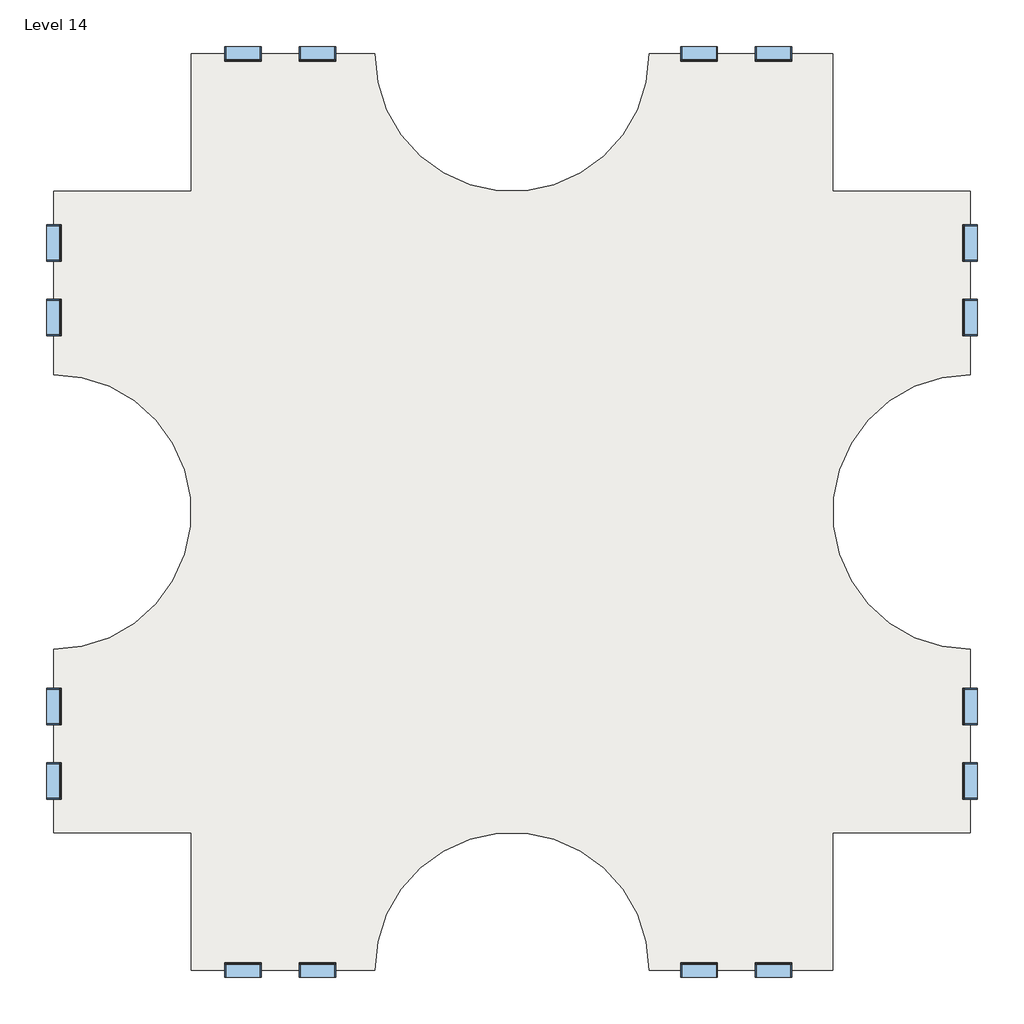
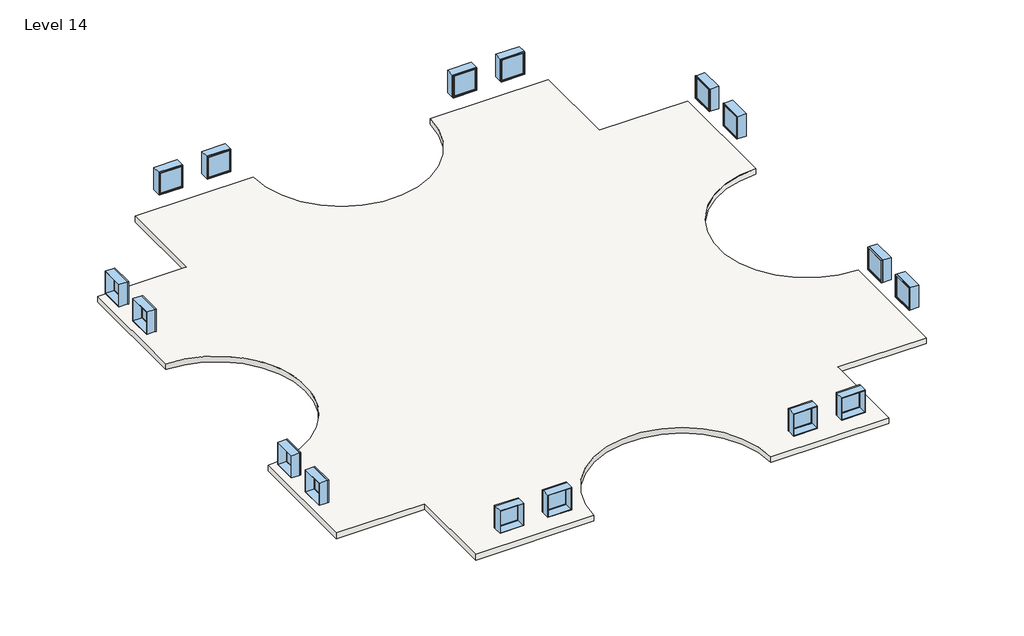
# One storey: 16 windows, 2 slabs.
"""IFC4 building model written with IfcOpenShell, lengths in millimetres."""

from ifc_helpers import new_model, si_unit, point, frame, frame_2d, origin, place, context, project, spatial, polyline, circle_curve, trimmed, segment, composite_curve, outline, extrude, transform, mapped, element, save
from components import window_d0035ecf, window_d434eb62

model = new_model("IFC4")

# Units and contexts
model_context = context("Model", 3, world=origin())
ifc_project = project(units=[si_unit("LENGTHUNIT", "METRE", prefix="MILLI")], contexts=[model_context])

# Site, building, storey
site = spatial("IfcSite", under=ifc_project)
building = spatial("IfcBuilding", under=site)
storey = spatial("IfcBuildingStorey", under=building, Name="Level 14", Elevation=39624.0)

# Slabs
placement = place(None, origin())
element("IfcSlab", 1, ObjectType="Generic - 12\"", at=placement, inside=storey, context=model_context, shape_type="SweptSolid", body=[
    extrude(outline(composite_curve([segment(polyline([(-7150.3629456, 4479.6634547), (-7150.3629456, 9051.6634547), (-1054.3629456, 9051.6634547)]), True, "CONTINUOUS"), segment(trimmed(circle_curve(frame_2d((3517.6370544, 9051.6634547)), 4572.0), [point((-1054.3629456, 9051.6634547))], [point((8089.6370544, 9051.6634547))], True, "CARTESIAN"), True, "CONTINUOUS"), segment(polyline([(8089.6370544, 9051.6634547), (14185.6370544, 9051.6634547), (14185.6370544, 4479.6634547), (18757.6370544, 4479.6634547), (18757.6370544, -1616.3365453)]), True, "CONTINUOUS"), segment(trimmed(circle_curve(frame_2d((18757.6370544, -6188.3365453)), 4572.0), [point((18757.6370544, -1616.3365453))], [point((18757.6370544, -10760.3365453))], True, "CARTESIAN"), True, "CONTINUOUS"), segment(polyline([(18757.6370544, -10760.3365453), (18757.6370544, -16856.3365453), (14185.6370544, -16856.3365453), (14185.6370544, -21428.3365453), (8089.6370544, -21428.3365453)]), True, "CONTINUOUS"), segment(trimmed(circle_curve(frame_2d((3517.6370544, -21428.3365453)), 4572.0), [point((8089.6370544, -21428.3365453))], [point((-1054.3629456, -21428.3365453))], True, "CARTESIAN"), True, "CONTINUOUS"), segment(polyline([(-1054.3629456, -21428.3365453), (-7150.3629456, -21428.3365453), (-7150.3629456, -16856.3365453), (-11722.3629456, -16856.3365453), (-11722.3629456, -10760.3365453)]), True, "CONTINUOUS"), segment(trimmed(circle_curve(frame_2d((-11722.3629456, -6188.3365453)), 4572.0), [point((-11722.3629456, -10760.3365453))], [point((-11722.3629456, -1616.3365453))], True, "CARTESIAN"), True, "CONTINUOUS"), segment(polyline([(-11722.3629456, -1616.3365453), (-11722.3629456, 4479.6634547), (-7150.3629456, 4479.6634547)]), True, "CONTINUOUS")], self_intersect=False)), frame((0.0, 0.0, 39319.2), z_axis=(0.0, 0.0, 1.0), x_axis=(1.0, 0.0, 0.0)), (0.0, 0.0, 1.0), 304.8),
])
element("IfcSlab", 2, ObjectType="Generic - 12\"", at=placement, inside=storey, context=model_context, shape_type="SweptSolid", body=[
    extrude(outline(composite_curve([segment(polyline([(-7150.3629456, 4479.6634547), (-7150.3629456, 9051.6634547), (-1054.3629456, 9051.6634547)]), True, "CONTINUOUS"), segment(trimmed(circle_curve(frame_2d((3517.6370544, 9051.6634547)), 4572.0), [point((-1054.3629456, 9051.6634547))], [point((8089.6370544, 9051.6634547))], True, "CARTESIAN"), True, "CONTINUOUS"), segment(polyline([(8089.6370544, 9051.6634547), (14185.6370544, 9051.6634547), (14185.6370544, 4479.6634547), (18757.6370544, 4479.6634547), (18757.6370544, -1616.3365453)]), True, "CONTINUOUS"), segment(trimmed(circle_curve(frame_2d((18757.6370544, -6188.3365453)), 4572.0), [point((18757.6370544, -1616.3365453))], [point((18757.6370544, -10760.3365453))], True, "CARTESIAN"), True, "CONTINUOUS"), segment(polyline([(18757.6370544, -10760.3365453), (18757.6370544, -16856.3365453), (14185.6370544, -16856.3365453), (14185.6370544, -21428.3365453), (8089.6370544, -21428.3365453)]), True, "CONTINUOUS"), segment(trimmed(circle_curve(frame_2d((3517.6370544, -21428.3365453)), 4572.0), [point((8089.6370544, -21428.3365453))], [point((-1054.3629456, -21428.3365453))], True, "CARTESIAN"), True, "CONTINUOUS"), segment(polyline([(-1054.3629456, -21428.3365453), (-7150.3629456, -21428.3365453), (-7150.3629456, -16856.3365453), (-11722.3629456, -16856.3365453), (-11722.3629456, -10760.3365453)]), True, "CONTINUOUS"), segment(trimmed(circle_curve(frame_2d((-11722.3629456, -6188.3365453)), 4572.0), [point((-11722.3629456, -10760.3365453))], [point((-11722.3629456, -1616.3365453))], True, "CARTESIAN"), True, "CONTINUOUS"), segment(polyline([(-11722.3629456, -1616.3365453), (-11722.3629456, 4479.6634547), (-7150.3629456, 4479.6634547)]), True, "CONTINUOUS")], self_intersect=False)), frame((0.0, 0.0, 39319.2), z_axis=(0.0, 0.0, 1.0), x_axis=(1.0, 0.0, 0.0)), (0.0, 0.0, 1.0), 304.8),
])

# Windows
window_shape = window_d0035ecf(model_context)
element("IfcWindow", 3, ObjectType="Fixed : 48\" x 48\"", at=placement, inside=storey, context=model_context, shape_type="MappedRepresentation", body=[
    mapped(window_shape, transform((-11719.1879456, 247.3884547, 39624.0), x_axis=(0.0, -1.0, 0.0), y_axis=(1.0, 0.0, 0.0), z_axis=(0.0, 0.0, 1.0))),
])
element("IfcWindow", 4, ObjectType="Fixed : 48\" x 48\"", at=placement, inside=storey, context=model_context, shape_type="MappedRepresentation", body=[
    mapped(window_shape, transform((-5469.1993281, 9048.4884547, 39624.0), x_axis=(-1.0, 0.0, 0.0), y_axis=(0.0, -1.0, 0.0), z_axis=(0.0, 0.0, 1.0))),
])
element("IfcWindow", 5, ObjectType="Fixed : 48\" x 48\"", at=placement, inside=storey, context=model_context, shape_type="MappedRepresentation", body=[
    mapped(window_shape, transform((-11719.1879456, -15175.1729277, 39624.0), x_axis=(0.0, -1.0, 0.0), y_axis=(1.0, 0.0, 0.0), z_axis=(0.0, 0.0, 1.0))),
])
element("IfcWindow", 6, ObjectType="Fixed : 48\" x 48\"", at=placement, inside=storey, context=model_context, shape_type="MappedRepresentation", body=[
    mapped(window_shape, transform((-2918.0879456, -21425.1615453, 39624.0), x_axis=(1.0, 0.0, 0.0), y_axis=(0.0, 1.0, 0.0), z_axis=(0.0, 0.0, 1.0))),
])
element("IfcWindow", 7, ObjectType="Fixed : 48\" x 48\"", at=placement, inside=storey, context=model_context, shape_type="MappedRepresentation", body=[
    mapped(window_shape, transform((18754.4620544, 2798.4998372, 39624.0), x_axis=(0.0, 1.0, 0.0), y_axis=(-1.0, 0.0, 0.0), z_axis=(0.0, 0.0, 1.0))),
])
element("IfcWindow", 8, ObjectType="Fixed : 48\" x 48\"", at=placement, inside=storey, context=model_context, shape_type="MappedRepresentation", body=[
    mapped(window_shape, transform((9705.7120544, 9048.4884547, 39624.0), x_axis=(-1.0, 0.0, 0.0), y_axis=(0.0, -1.0, 0.0), z_axis=(0.0, 0.0, 1.0))),
])
element("IfcWindow", 9, ObjectType="Fixed : 48\" x 48\"", at=placement, inside=storey, context=model_context, shape_type="MappedRepresentation", body=[
    mapped(window_shape, transform((18754.4620544, -12624.0615453, 39624.0), x_axis=(0.0, 1.0, 0.0), y_axis=(-1.0, 0.0, 0.0), z_axis=(0.0, 0.0, 1.0))),
])
element("IfcWindow", 10, ObjectType="Fixed : 48\" x 48\"", at=placement, inside=storey, context=model_context, shape_type="MappedRepresentation", body=[
    mapped(window_shape, transform((12256.8234368, -21425.1615453, 39624.0), x_axis=(1.0, 0.0, 0.0), y_axis=(0.0, 1.0, 0.0), z_axis=(0.0, 0.0, 1.0))),
])
window_2_shape = window_d434eb62(model_context)
element("IfcWindow", 11, ObjectType="Fixed : 48\" x 48\"", at=placement, inside=storey, context=model_context, shape_type="MappedRepresentation", body=[
    mapped(window_2_shape, transform((-11719.1879456, 2798.4998372, 39624.0), x_axis=(0.0, 1.0, 0.0), y_axis=(-1.0, 0.0, 0.0), z_axis=(0.0, 0.0, 1.0))),
])
element("IfcWindow", 12, ObjectType="Fixed : 48\" x 48\"", at=placement, inside=storey, context=model_context, shape_type="MappedRepresentation", body=[
    mapped(window_2_shape, transform((-2918.0879456, 9048.4884547, 39624.0), x_axis=(1.0, 0.0, 0.0), y_axis=(0.0, 1.0, 0.0), z_axis=(0.0, 0.0, 1.0))),
])
element("IfcWindow", 13, ObjectType="Fixed : 48\" x 48\"", at=placement, inside=storey, context=model_context, shape_type="MappedRepresentation", body=[
    mapped(window_2_shape, transform((-11719.1879456, -12624.0615453, 39624.0), x_axis=(0.0, 1.0, 0.0), y_axis=(-1.0, 0.0, 0.0), z_axis=(0.0, 0.0, 1.0))),
])
element("IfcWindow", 14, ObjectType="Fixed : 48\" x 48\"", at=placement, inside=storey, context=model_context, shape_type="MappedRepresentation", body=[
    mapped(window_2_shape, transform((-5469.1993281, -21425.1615453, 39624.0), x_axis=(-1.0, 0.0, 0.0), y_axis=(0.0, -1.0, 0.0), z_axis=(0.0, 0.0, 1.0))),
])
element("IfcWindow", 15, ObjectType="Fixed : 48\" x 48\"", at=placement, inside=storey, context=model_context, shape_type="MappedRepresentation", body=[
    mapped(window_2_shape, transform((18754.4620544, 247.3884547, 39624.0), x_axis=(0.0, -1.0, 0.0), y_axis=(1.0, 0.0, 0.0), z_axis=(0.0, 0.0, 1.0))),
])
element("IfcWindow", 16, ObjectType="Fixed : 48\" x 48\"", at=placement, inside=storey, context=model_context, shape_type="MappedRepresentation", body=[
    mapped(window_2_shape, transform((12256.8234368, 9048.4884547, 39624.0), x_axis=(1.0, 0.0, 0.0), y_axis=(0.0, 1.0, 0.0), z_axis=(0.0, 0.0, 1.0))),
])
element("IfcWindow", 17, ObjectType="Fixed : 48\" x 48\"", at=placement, inside=storey, context=model_context, shape_type="MappedRepresentation", body=[
    mapped(window_2_shape, transform((18754.4620544, -15175.1729277, 39624.0), x_axis=(0.0, -1.0, 0.0), y_axis=(1.0, 0.0, 0.0), z_axis=(0.0, 0.0, 1.0))),
])
element("IfcWindow", 18, ObjectType="Fixed : 48\" x 48\"", at=placement, inside=storey, context=model_context, shape_type="MappedRepresentation", body=[
    mapped(window_2_shape, transform((9705.7120544, -21425.1615453, 39624.0), x_axis=(-1.0, 0.0, 0.0), y_axis=(0.0, -1.0, 0.0), z_axis=(0.0, 0.0, 1.0))),
])

save(model, "model.ifc")
